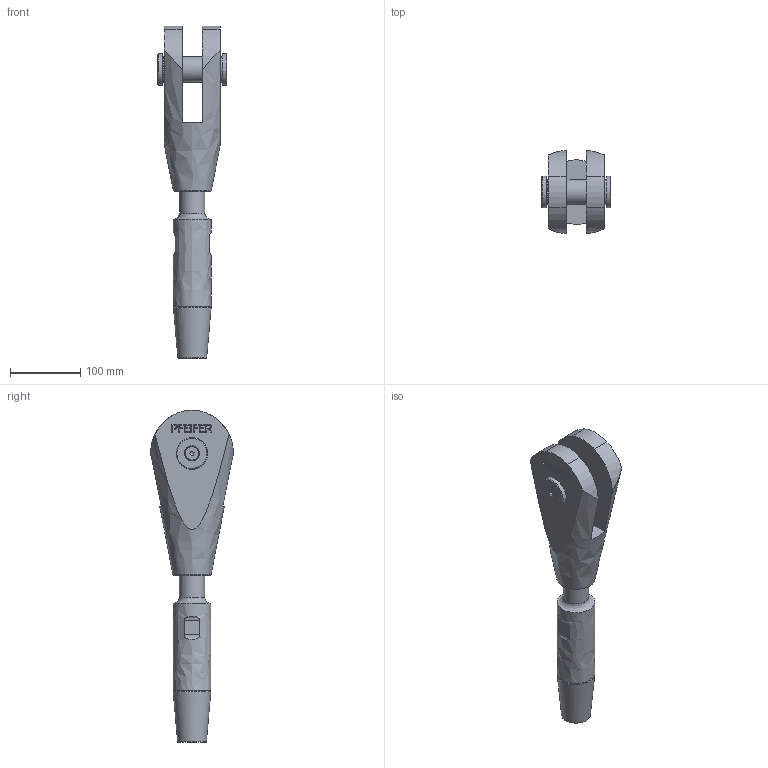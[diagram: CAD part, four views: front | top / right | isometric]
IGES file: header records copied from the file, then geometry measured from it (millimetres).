
Global section: file name: 520-036-GAK-ADA; native system: Autodesk Inventor 2016; preprocessor: unknown; author: Administrator; date: 20200703.130900; units: centimetre
Bounding box: 99.75 x 118.26 x 474 mm (x, y, z)
Volume: 1494275 mm3; surface area: 158829.9 mm2
Topology: 2 solids, 3 shells, 197 faces, 521 edges, 350 vertices
Faces by surface type: bspline 197
